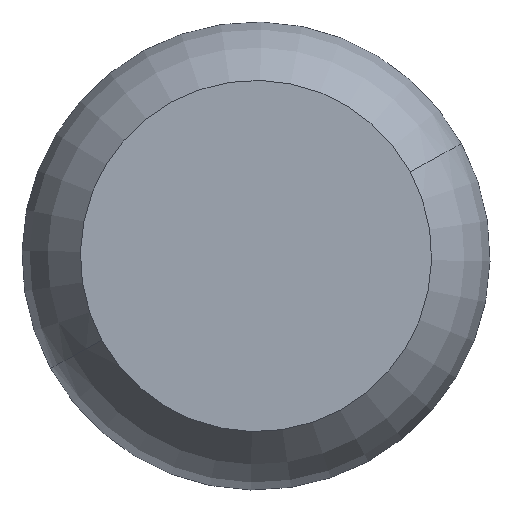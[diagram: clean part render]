
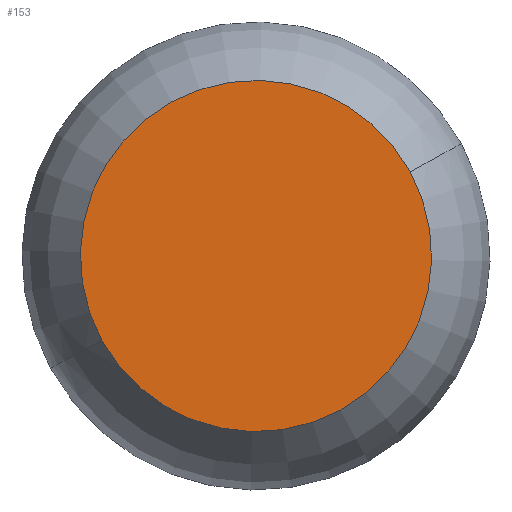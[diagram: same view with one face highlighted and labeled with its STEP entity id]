
A CAD part, front view. The second image highlights one B-rep face of the part: STEP entity #153.
In plain terms, the highlighted planar face has unit normal (0, -1, 0).
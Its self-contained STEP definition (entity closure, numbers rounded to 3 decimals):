
#66=CARTESIAN_POINT('Axis2P3D Location',(0.,0.,0.)) ;
#70=CARTESIAN_POINT('Vertex',(83.37,0.,45.545)) ;
#72=CARTESIAN_POINT('Vertex',(-83.37,0.,-45.545)) ;
#127=CARTESIAN_POINT('Axis2P3D Location',(0.,0.,0.)) ;
#144=CARTESIAN_POINT('Axis2P3D Location',(0.,0.,0.)) ;
#67=DIRECTION('Axis2P3D Direction',(0.,-1.,0.)) ;
#128=DIRECTION('Axis2P3D Direction',(0.,-1.,0.)) ;
#145=DIRECTION('Axis2P3D Direction',(0.,-1.,0.)) ;
#146=DIRECTION('Axis2P3D XDirection',(1.,0.,0.)) ;
#68=AXIS2_PLACEMENT_3D('Circle Axis2P3D',#66,#67,$) ;
#129=AXIS2_PLACEMENT_3D('Circle Axis2P3D',#127,#128,$) ;
#147=AXIS2_PLACEMENT_3D('Plane Axis2P3D',#144,#145,#146) ;
#150=ORIENTED_EDGE('',*,*,#74,.T.) ;
#151=ORIENTED_EDGE('',*,*,#131,.T.) ;
#153=ADVANCED_FACE('PartBody',(#152),#148,.T.) ;
#69=CIRCLE('generated circle',#68,95.) ;
#130=CIRCLE('generated circle',#129,95.) ;
#74=EDGE_CURVE('',#71,#73,#69,.T.) ;
#131=EDGE_CURVE('',#73,#71,#130,.T.) ;
#149=EDGE_LOOP('',(#150,#151)) ;
#152=FACE_OUTER_BOUND('',#149,.T.) ;
#148=PLANE('',#147) ;
#71=VERTEX_POINT('',#70) ;
#73=VERTEX_POINT('',#72) ;
